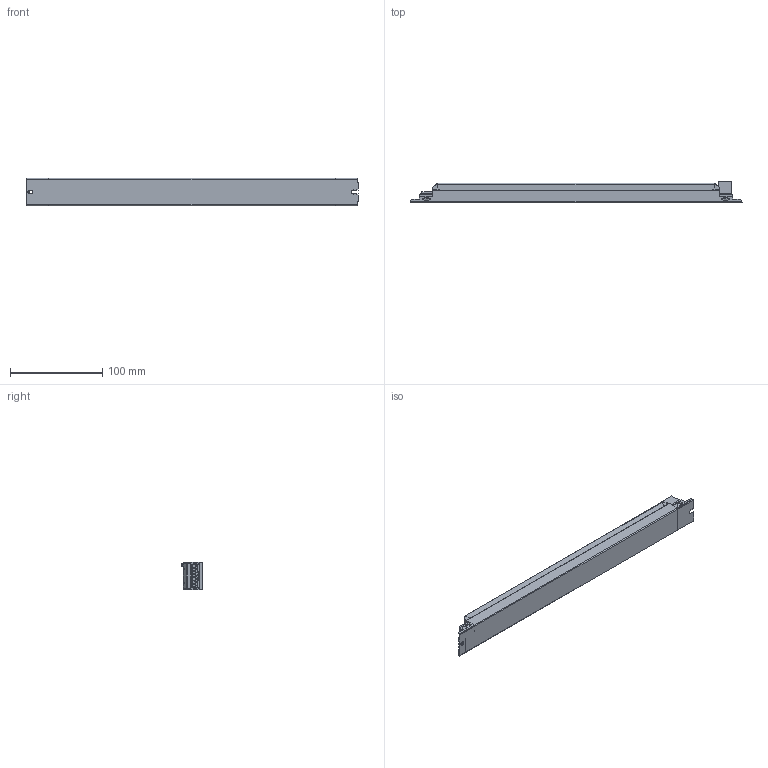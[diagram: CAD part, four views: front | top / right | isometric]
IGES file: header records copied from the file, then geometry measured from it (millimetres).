
Start section: SolidWorks IGES file using analytic representation for surfaces
Global section: file name: D:\ECTR_TEMP\OLQ-batchEngine\queue\temp\4165666swm000.igs; native system: SolidWorks 2017; preprocessor: SolidWorks 2017; author: SYSTEM; date: 191125.082348; units: millimetre
Bounding box: 359 x 23.15 x 30 mm (x, y, z)
Surface area: 42890.7 mm2 (no closed solid volume)
Topology: 0 solids, 0 shells, 798 faces, 7226 edges, 7226 vertices
Faces by surface type: bspline 521, revolution 277
